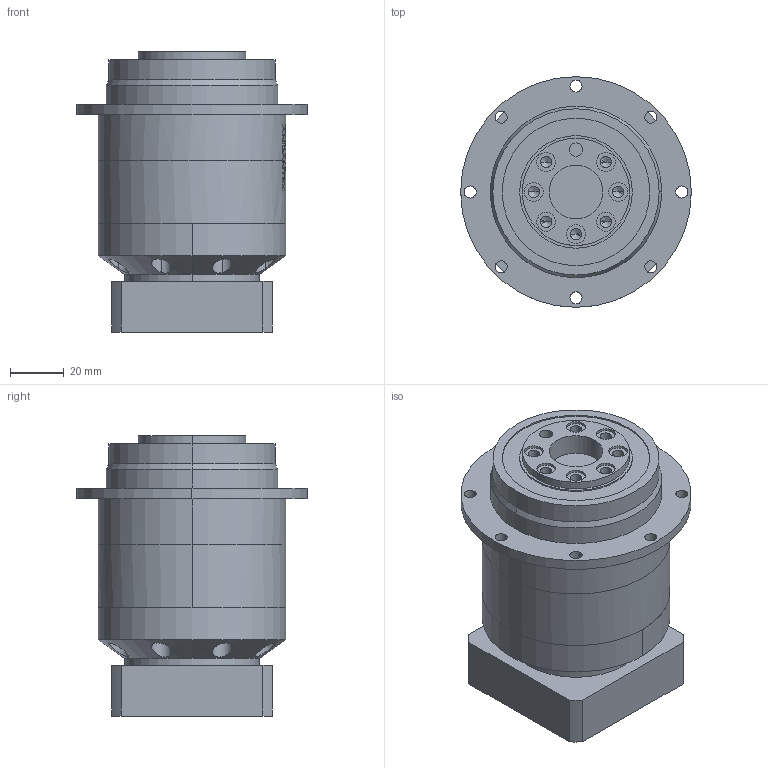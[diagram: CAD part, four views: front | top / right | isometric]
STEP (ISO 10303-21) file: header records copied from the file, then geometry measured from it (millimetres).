
FILE_DESCRIPTION (( 'STEP AP203' ), '1' );
FILE_NAME ('PLX060-L2-14-50-70.STEP', '2022-07-05T08:04:17', ( 'Windows User' ), ( 'P R C' ), 'SwSTEP 2.0', 'SolidWorks 2016', '' );
FILE_SCHEMA (( 'CONFIG_CONTROL_DESIGN' ));
Length unit declared in the file: millimetre
Products named in the file (6): PLX060窣諉啣-梓袧; 粣創-61805 25x37x7; PLX060-L2-14-50-70; PLX060内齿圈_一级加二级内齿圈; PLX060 狟屳啣; 囀鞠褒蹟佪-M4℅16
Assembly tree (5 placements, depth 2):
  PLX060-L2-14-50-70
    PLX060内齿圈_一级加二级内齿圈
    PLX060 狟屳啣
    囀鞠褒蹟佪-M4℅16
    PLX060窣諉啣-梓袧
    粣創-61805 25x37x7
Bounding box: 86 x 86 x 104.5 mm (x, y, z)
Volume: 338439.2 mm3; surface area: 82325.7 mm2
Topology: 7 solids, 7 shells, 1171 faces, 3248 edges, 2138 vertices
Faces by surface type: plane 582, bspline 311, cylinder 250, cone 28
Entity records: 49633 total; most frequent: CARTESIAN_POINT 20897, ORIENTED_EDGE 6396, DIRECTION 5028, EDGE_CURVE 3198, VERTEX_POINT 2138, AXIS2_PLACEMENT_3D 1752, LINE 1524, VECTOR 1524
